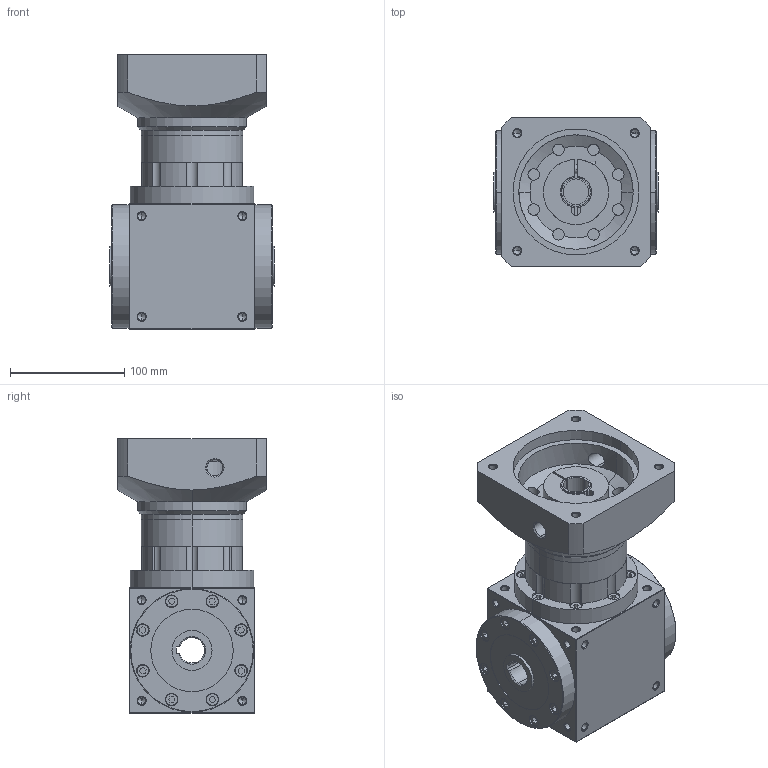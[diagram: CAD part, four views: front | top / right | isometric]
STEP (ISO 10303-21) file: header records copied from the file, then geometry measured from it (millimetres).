
FILE_DESCRIPTION (( 'STEP AP203' ), '1' );
FILE_NAME ('AT120-FH-L2-22-110-145M8.STEP', '2025-08-14T06:42:08', ( 'Windows User' ), ( 'P R C' ), 'SwSTEP 2.0', 'SolidWorks 2016', '' );
FILE_SCHEMA (( 'CONFIG_CONTROL_DESIGN' ));
Length unit declared in the file: millimetre
Products named in the file (7): AT120-输入法兰-F-110-M8-145; 输入胀套-27; 输入轴套-24-22; AT120-FH-L2-22-110-145M8; AT120-蛌褒眊极-謂怀堤; AT120-怀堤楊擘-蠶講; AT120-单级齿圈
Assembly tree (6 placements, depth 2):
  AT120-FH-L2-22-110-145M8
    AT120-蛌褒眊极-謂怀堤
    AT120-怀堤楊擘-蠶講
    AT120-单级齿圈
    AT120-输入法兰-F-110-M8-145
    输入胀套-27
    输入轴套-24-22
Bounding box: 144 x 130 x 240 mm (x, y, z)
Volume: 2015898.4 mm3; surface area: 318944.1 mm2
Topology: 6 solids, 18 shells, 1504 faces, 3914 edges, 2492 vertices
Faces by surface type: plane 785, cylinder 371, cone 228, bspline 120
Entity records: 53916 total; most frequent: CARTESIAN_POINT 17492, ORIENTED_EDGE 7652, DIRECTION 6954, EDGE_CURVE 3826, VERTEX_POINT 2492, LINE 2464, VECTOR 2464, AXIS2_PLACEMENT_3D 2245
